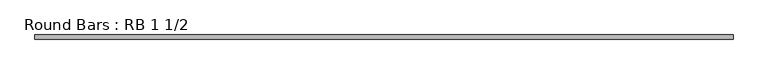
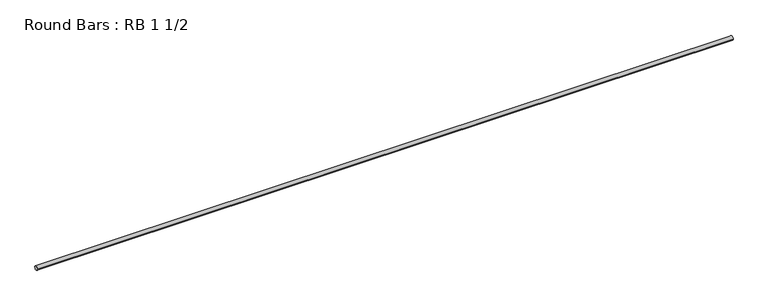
"""IFC4 building model written with IfcOpenShell, lengths in millimetres: member geometry, Round Bars : RB 1 1/2."""

from ifc_helpers import new_model, si_unit, point, frame, origin, origin_2d, place, context, project, spatial, circle_curve, trimmed, segment, composite_curve, outline, extrude, source, transform, mapped, element, save


def round_bars_rb_1_1_2_24e4f47d(model_context):
    return source(origin(), model_context, "Body", "SweptSolid", [
        extrude(outline(composite_curve([segment(trimmed(circle_curve(origin_2d(), 19.05), [point((19.05, 0.0))], [point((-19.05, 0.0))], False, "CARTESIAN"), True, "CONTINUOUS"), segment(trimmed(circle_curve(origin_2d(), 19.05), [point((-19.05, 0.0))], [point((19.05, 0.0))], False, "CARTESIAN"), True, "CONTINUOUS")], self_intersect=False)), frame((-3180.8931396, 0.0, 0.0), z_axis=(1.0, 0.0, 0.0), x_axis=(0.0, 1.0, 0.0)), (0.0, 0.0, 1.0), 6493.3782145),
    ])


if __name__ == "__main__":
    model = new_model("IFC4")
    model_context = context("Model", 3, world=origin())
    ifc_project = project(units=[si_unit("LENGTHUNIT", "METRE", prefix="MILLI")], contexts=[model_context])
    site = spatial("IfcSite", under=ifc_project)
    building = spatial("IfcBuilding", under=site)
    placement = place(None, origin())
    round_bars_rb_1_1_2_shape = round_bars_rb_1_1_2_24e4f47d(model_context)
    element("IfcMember", 1, ObjectType="Round Bars : RB 1 1/2", at=placement, inside=building, context=model_context, shape_type="MappedRepresentation", body=[
        mapped(round_bars_rb_1_1_2_shape, transform((0.0, 0.0, 0.0), x_axis=(1.0, 0.0, 0.0), y_axis=(0.0, 1.0, 0.0), z_axis=(0.0, 0.0, 1.0))),
    ])
    save(model, "model.ifc")
